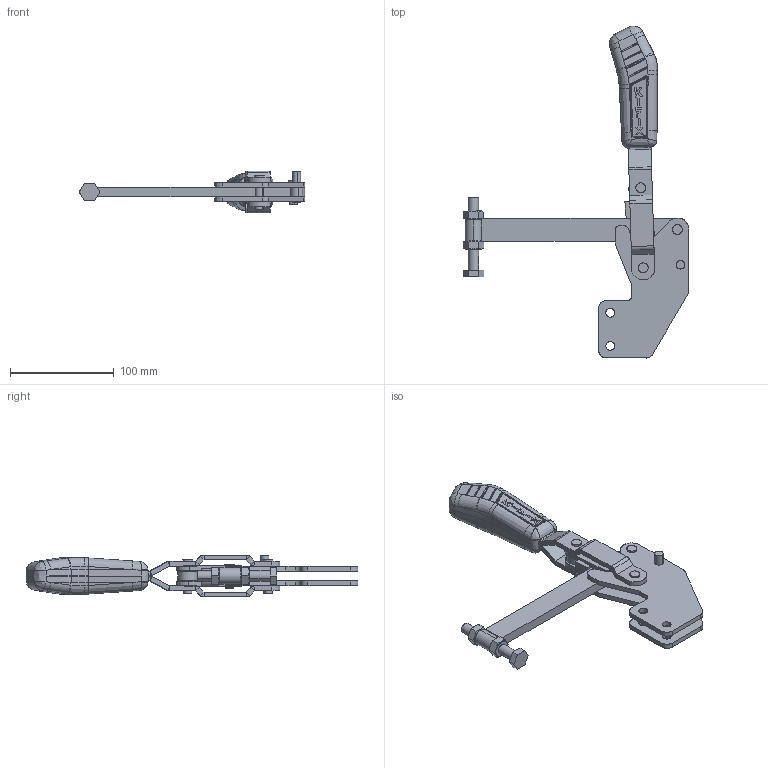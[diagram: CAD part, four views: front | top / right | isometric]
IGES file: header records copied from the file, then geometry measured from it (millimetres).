
Start section: SolidWorks IGES file using analytic representation for surfaces
Global section: file name: C:\Projetos\Grampos\KF-411\KF-411 RS\KF-411 RS.IGS; native system: SolidWorks 2013; preprocessor: SolidWorks 2013; author: Ricardo; date: 140801.101427; units: millimetre
Bounding box: 217.8 x 320.55 x 40.5 mm (x, y, z)
Surface area: 113359.6 mm2 (no closed solid volume)
Topology: 0 solids, 0 shells, 757 faces, 8238 edges, 8211 vertices
Faces by surface type: bspline 438, revolution 319
